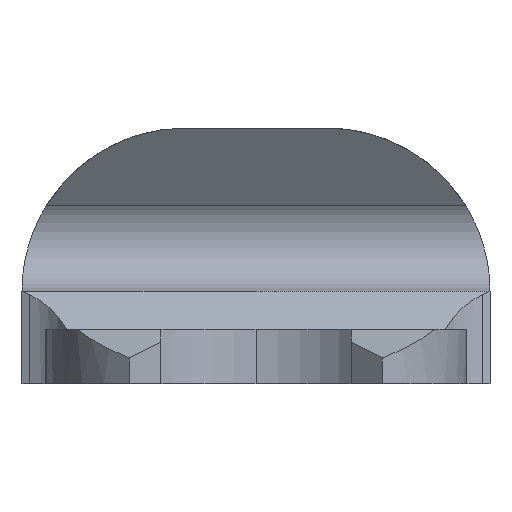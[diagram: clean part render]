
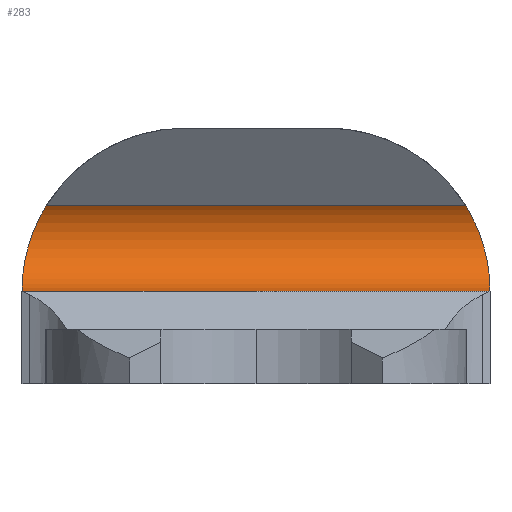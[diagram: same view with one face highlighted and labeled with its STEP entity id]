
A CAD part, front view. The second image highlights one B-rep face of the part: STEP entity #283.
In plain terms, the highlighted cylindrical face has radius 1 mm (diameter 2 mm), a partial arc.
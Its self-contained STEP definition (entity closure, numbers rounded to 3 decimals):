
#232=CARTESIAN_POINT('Axis2P3D Location',(0.,69.976,28.65)) ;
#238=CARTESIAN_POINT('Control Point',(-4.3,69.976,27.65)) ;
#239=CARTESIAN_POINT('Control Point',(-4.3,70.197,27.65)) ;
#240=CARTESIAN_POINT('Control Point',(-4.3,70.417,27.711)) ;
#241=CARTESIAN_POINT('Control Point',(-4.301,70.616,27.832)) ;
#242=CARTESIAN_POINT('Control Point',(-4.27,70.929,28.181)) ;
#243=CARTESIAN_POINT('Control Point',(-4.152,71.015,28.629)) ;
#244=CARTESIAN_POINT('Control Point',(-4.062,70.989,28.854)) ;
#245=CARTESIAN_POINT('Control Point',(-3.958,70.914,29.054)) ;
#246=CARTESIAN_POINT('Control Point',(-3.854,70.795,29.224)) ;
#247=CARTESIAN_POINT('Vertex',(-4.3,69.976,27.65)) ;
#249=CARTESIAN_POINT('Vertex',(-3.854,70.795,29.224)) ;
#252=CARTESIAN_POINT('Line Origine',(0.,69.976,27.65)) ;
#256=CARTESIAN_POINT('Vertex',(4.3,69.976,27.65)) ;
#260=CARTESIAN_POINT('Control Point',(4.3,69.976,27.65)) ;
#261=CARTESIAN_POINT('Control Point',(4.3,70.197,27.65)) ;
#262=CARTESIAN_POINT('Control Point',(4.3,70.417,27.711)) ;
#263=CARTESIAN_POINT('Control Point',(4.301,70.616,27.832)) ;
#264=CARTESIAN_POINT('Control Point',(4.27,70.929,28.181)) ;
#265=CARTESIAN_POINT('Control Point',(4.152,71.015,28.629)) ;
#266=CARTESIAN_POINT('Control Point',(4.062,70.989,28.854)) ;
#267=CARTESIAN_POINT('Control Point',(3.958,70.914,29.054)) ;
#268=CARTESIAN_POINT('Control Point',(3.854,70.795,29.224)) ;
#269=CARTESIAN_POINT('Vertex',(3.854,70.795,29.224)) ;
#272=CARTESIAN_POINT('Line Origine',(0.,70.795,29.224)) ;
#233=DIRECTION('Axis2P3D Direction',(-1.,0.,0.)) ;
#234=DIRECTION('Axis2P3D XDirection',(0.,0.819,0.574)) ;
#253=DIRECTION('Vector Direction',(-1.,0.,0.)) ;
#273=DIRECTION('Vector Direction',(-1.,0.,0.)) ;
#235=AXIS2_PLACEMENT_3D('Cylinder Axis2P3D',#232,#233,#234) ;
#278=ORIENTED_EDGE('',*,*,#251,.F.) ;
#279=ORIENTED_EDGE('',*,*,#258,.T.) ;
#280=ORIENTED_EDGE('',*,*,#271,.F.) ;
#281=ORIENTED_EDGE('',*,*,#276,.F.) ;
#254=VECTOR('Line Direction',#253,1.) ;
#274=VECTOR('Line Direction',#273,1.) ;
#283=ADVANCED_FACE('Corps principal',(#282),#236,.F.) ;
#237=B_SPLINE_CURVE_WITH_KNOTS('',5,(#238,#239,#240,#241,#242,#243,#244,#245,#246),.UNSPECIFIED.,.F.,.U.,(6,3,6),(0.,1.558,3.195),.UNSPECIFIED.) ;
#259=B_SPLINE_CURVE_WITH_KNOTS('',5,(#260,#261,#262,#263,#264,#265,#266,#267,#268),.UNSPECIFIED.,.F.,.U.,(6,3,6),(0.,1.558,3.195),.UNSPECIFIED.) ;
#236=CYLINDRICAL_SURFACE('generated cylinder',#235,1.) ;
#251=EDGE_CURVE('',#248,#250,#237,.T.) ;
#258=EDGE_CURVE('',#248,#257,#255,.F.) ;
#271=EDGE_CURVE('',#270,#257,#259,.F.) ;
#276=EDGE_CURVE('',#250,#270,#275,.F.) ;
#277=EDGE_LOOP('',(#278,#279,#280,#281)) ;
#282=FACE_OUTER_BOUND('',#277,.T.) ;
#255=LINE('Line',#252,#254) ;
#275=LINE('Line',#272,#274) ;
#248=VERTEX_POINT('',#247) ;
#250=VERTEX_POINT('',#249) ;
#257=VERTEX_POINT('',#256) ;
#270=VERTEX_POINT('',#269) ;
